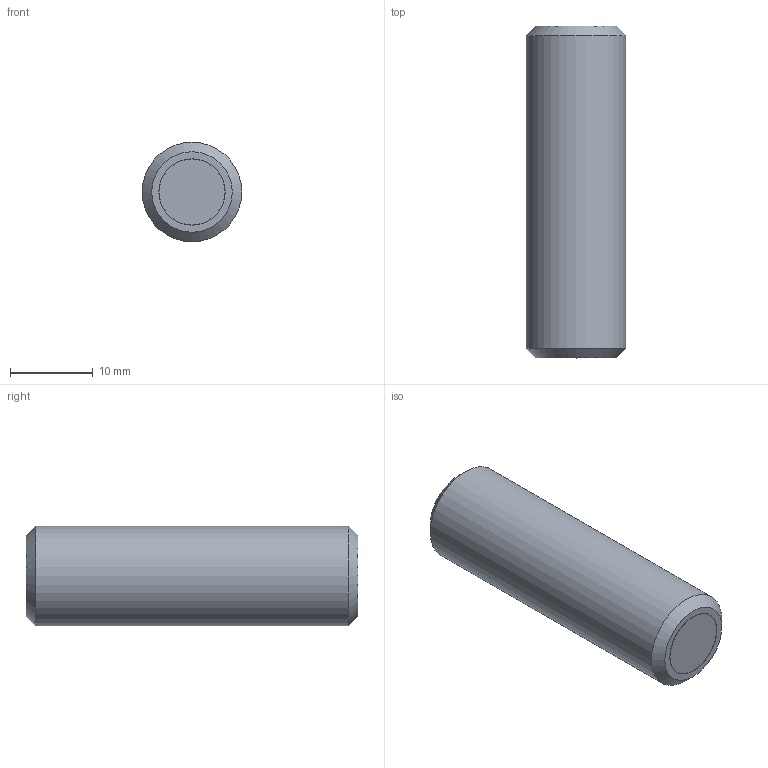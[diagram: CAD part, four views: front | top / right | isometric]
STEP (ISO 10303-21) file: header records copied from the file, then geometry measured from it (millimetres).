
FILE_DESCRIPTION(/* description */ ('STEP AP214'),/* implementation_level */ '2;1');
FILE_NAME(/* name */ 'Grub screw with retaining magnet GN 913.6-M12-40-ND',/* time_stamp */ '2023-10-03T11:27:23+02:00',/* author */ ('License CC BY-ND 4.0'),/* organization */ ('CADENAS'),/* preprocessor_version */ 'ST-DEVELOPER v19.3',/* originating_system */ 'PARTsolutions',/* authorisation */ ' ');
FILE_SCHEMA (('AUTOMOTIVE_DESIGN {1 0 10303 214 3 1 1}'));
Length unit declared in the file: millimetre
Products named in the file (1): Grub screw with retaining magnet GN 913.6-M12-40-ND
Bounding box: 12 x 40 x 12 mm (x, y, z)
Volume: 4282.2 mm3; surface area: 1804.4 mm2
Topology: 1 solids, 1 shells, 22 faces, 46 edges, 28 vertices
Faces by surface type: plane 16, cone 3, cylinder 3
Full cylindrical faces by diameter (mm): 7.96 x1, 8 x1, 12 x1
Entity records: 566 total; most frequent: DIRECTION 98, CARTESIAN_POINT 88, ORIENTED_EDGE 76, EDGE_CURVE 38, AXIS2_PLACEMENT_3D 37, FACE_BOUND 31, EDGE_LOOP 30, VERTEX_POINT 27
